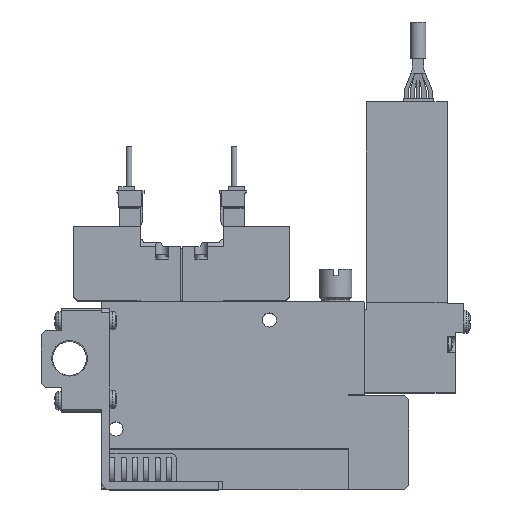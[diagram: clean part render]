
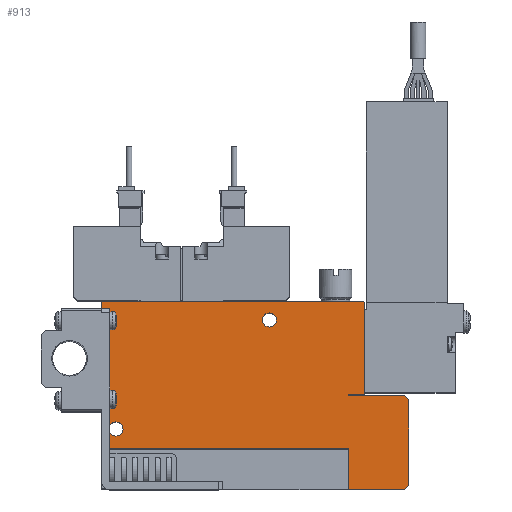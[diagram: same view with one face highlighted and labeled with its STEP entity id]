
A CAD part, top view. The second image highlights one B-rep face of the part: STEP entity #913.
In plain terms, the highlighted planar face has unit normal (0, 0, 1).
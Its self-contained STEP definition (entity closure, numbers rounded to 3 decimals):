
#913=ADVANCED_FACE('',(#2149,#2150,#2151),#2152,.F.);
#2149=FACE_OUTER_BOUND('',#3793,.T.);
#2150=FACE_BOUND('',#3794,.T.);
#2151=FACE_BOUND('',#3795,.T.);
#2152=PLANE('',#3796);
#3793=EDGE_LOOP('',(#8177,#8178,#8179,#8180,#8181,#8182,#8183,#8184,#8185,#8186,#8187,#8188,#8189,#8190));
#3794=EDGE_LOOP('',(#8191));
#3795=EDGE_LOOP('',(#8192));
#3796=AXIS2_PLACEMENT_3D('',#8193,#8194,#8195);
#8177=ORIENTED_EDGE('',*,*,#11498,.T.);
#8178=ORIENTED_EDGE('',*,*,#11508,.F.);
#8179=ORIENTED_EDGE('',*,*,#11553,.F.);
#8180=ORIENTED_EDGE('',*,*,#11409,.T.);
#8181=ORIENTED_EDGE('',*,*,#11442,.T.);
#8182=ORIENTED_EDGE('',*,*,#11554,.T.);
#8183=ORIENTED_EDGE('',*,*,#11434,.T.);
#8184=ORIENTED_EDGE('',*,*,#11555,.T.);
#8185=ORIENTED_EDGE('',*,*,#11492,.T.);
#8186=ORIENTED_EDGE('',*,*,#11401,.T.);
#8187=ORIENTED_EDGE('',*,*,#11550,.T.);
#8188=ORIENTED_EDGE('',*,*,#11286,.T.);
#8189=ORIENTED_EDGE('',*,*,#11456,.T.);
#8190=ORIENTED_EDGE('',*,*,#11556,.T.);
#8191=ORIENTED_EDGE('',*,*,#11528,.F.);
#8192=ORIENTED_EDGE('',*,*,#11507,.F.);
#8193=CARTESIAN_POINT('',(0.0,0.0,5.0));
#8194=DIRECTION('',(0.0,0.0,-1.0));
#8195=DIRECTION('',(0.0,-1.0,0.0));
#11286=EDGE_CURVE('',#13793,#13791,#13794,.T.);
#11401=EDGE_CURVE('',#13995,#13993,#13996,.T.);
#11409=EDGE_CURVE('',#14004,#14008,#14010,.T.);
#11434=EDGE_CURVE('',#14050,#14048,#14051,.T.);
#11442=EDGE_CURVE('',#14008,#14061,#14063,.T.);
#11456=EDGE_CURVE('',#13791,#14083,#14085,.T.);
#11492=EDGE_CURVE('',#14140,#13995,#14141,.T.);
#11498=EDGE_CURVE('',#14150,#14148,#14151,.T.);
#11507=EDGE_CURVE('',#14163,#14163,#14164,.T.);
#11508=EDGE_CURVE('',#14165,#14148,#14166,.T.);
#11528=EDGE_CURVE('',#14197,#14197,#14198,.T.);
#11550=EDGE_CURVE('',#13993,#13793,#14223,.T.);
#11553=EDGE_CURVE('',#14004,#14165,#14226,.T.);
#11554=EDGE_CURVE('',#14061,#14050,#14227,.T.);
#11555=EDGE_CURVE('',#14048,#14140,#14228,.T.);
#11556=EDGE_CURVE('',#14083,#14150,#14229,.T.);
#13791=VERTEX_POINT('',#17949);
#13793=VERTEX_POINT('',#17952);
#13794=LINE('',#17953,#17954);
#13993=VERTEX_POINT('',#18244);
#13995=VERTEX_POINT('',#18247);
#13996=LINE('',#18248,#18249);
#14004=VERTEX_POINT('',#18261);
#14008=VERTEX_POINT('',#18267);
#14010=LINE('',#18270,#18271);
#14048=VERTEX_POINT('',#18337);
#14050=VERTEX_POINT('',#18340);
#14051=LINE('',#18341,#18342);
#14061=VERTEX_POINT('',#18358);
#14063=LINE('',#18361,#18362);
#14083=VERTEX_POINT('',#18403);
#14085=LINE('',#18406,#18407);
#14140=VERTEX_POINT('',#18507);
#14141=LINE('',#18508,#18509);
#14148=VERTEX_POINT('',#18520);
#14150=VERTEX_POINT('',#18523);
#14151=LINE('',#18524,#18525);
#14163=VERTEX_POINT('',#18549);
#14164=CIRCLE('',#18550,1.75);
#14165=VERTEX_POINT('',#18551);
#14166=LINE('',#18552,#18553);
#14197=VERTEX_POINT('',#18609);
#14198=CIRCLE('',#18610,1.75);
#14223=LINE('',#18663,#18664);
#14226=LINE('',#18678,#18679);
#14227=LINE('',#18680,#18681);
#14228=LINE('',#18682,#18683);
#14229=LINE('',#18684,#18685);
#17949=CARTESIAN_POINT('',(64.8,46.6,5.0));
#17952=CARTESIAN_POINT('',(65.0,46.4,5.0));
#17953=CARTESIAN_POINT('',(65.0,46.4,5.0));
#17954=VECTOR('',#22124,1.0);
#18244=CARTESIAN_POINT('',(65.0,23.5,5.0));
#18247=CARTESIAN_POINT('',(61.0,23.5,5.0));
#18248=CARTESIAN_POINT('',(61.0,23.5,5.0));
#18249=VECTOR('',#22283,1.0);
#18261=CARTESIAN_POINT('',(61.1,0.0,5.0));
#18267=CARTESIAN_POINT('',(75.0,0.0,5.0));
#18270=CARTESIAN_POINT('',(0.0,0.0,5.0));
#18271=VECTOR('',#22291,1.0);
#18337=CARTESIAN_POINT('',(75.0,23.25,5.0));
#18340=CARTESIAN_POINT('',(76.0,22.25,5.0));
#18341=CARTESIAN_POINT('',(76.0,22.25,5.0));
#18342=VECTOR('',#22323,1.0);
#18358=CARTESIAN_POINT('',(76.0,1.0,5.0));
#18361=CARTESIAN_POINT('',(75.0,0.0,5.0));
#18362=VECTOR('',#22331,1.0);
#18403=CARTESIAN_POINT('',(0.2,46.6,5.0));
#18406=CARTESIAN_POINT('',(64.8,46.6,5.0));
#18407=VECTOR('',#22344,1.0);
#18507=CARTESIAN_POINT('',(61.0,23.25,5.0));
#18508=CARTESIAN_POINT('',(61.0,23.25,5.0));
#18509=VECTOR('',#22394,1.0);
#18520=CARTESIAN_POINT('',(0.0,10.1,5.0));
#18523=CARTESIAN_POINT('',(0.0,46.4,5.0));
#18524=CARTESIAN_POINT('',(0.0,46.4,5.0));
#18525=VECTOR('',#22400,1.0);
#18549=CARTESIAN_POINT('',(43.25,42.0,5.0));
#18550=AXIS2_PLACEMENT_3D('',#22416,#22417,#22418);
#18551=CARTESIAN_POINT('',(61.1,10.1,5.0));
#18552=CARTESIAN_POINT('',(61.1,10.1,5.0));
#18553=VECTOR('',#22419,1.0);
#18609=CARTESIAN_POINT('',(5.25,15.0,5.0));
#18610=AXIS2_PLACEMENT_3D('',#22442,#22443,#22444);
#18663=CARTESIAN_POINT('',(65.0,23.5,5.0));
#18664=VECTOR('',#22469,1.0);
#18678=CARTESIAN_POINT('',(61.1,0.0,5.0));
#18679=VECTOR('',#22471,1.0);
#18680=CARTESIAN_POINT('',(76.0,1.0,5.0));
#18681=VECTOR('',#22472,1.0);
#18682=CARTESIAN_POINT('',(75.0,23.25,5.0));
#18683=VECTOR('',#22473,1.0);
#18684=CARTESIAN_POINT('',(0.2,46.6,5.0));
#18685=VECTOR('',#22474,1.0);
#22124=DIRECTION('',(-0.707,0.707,0.0));
#22283=DIRECTION('',(1.0,0.,0.0));
#22291=DIRECTION('',(1.0,0.0,0.0));
#22323=DIRECTION('',(-0.707,0.707,0.0));
#22331=DIRECTION('',(0.707,0.707,0.0));
#22344=DIRECTION('',(-1.0,0.0,0.0));
#22394=DIRECTION('',(0.0,1.0,0.0));
#22400=DIRECTION('',(0.0,-1.0,0.0));
#22416=CARTESIAN_POINT('',(41.5,42.0,5.0));
#22417=DIRECTION('',(0.0,0.0,1.0));
#22418=DIRECTION('',(1.0,0.0,0.0));
#22419=DIRECTION('',(-1.0,0.0,0.0));
#22442=CARTESIAN_POINT('',(3.5,15.0,5.0));
#22443=DIRECTION('',(0.0,0.0,1.0));
#22444=DIRECTION('',(1.0,0.0,0.0));
#22469=DIRECTION('',(0.0,1.0,0.0));
#22471=DIRECTION('',(0.0,1.0,0.0));
#22472=DIRECTION('',(0.0,1.0,0.0));
#22473=DIRECTION('',(-1.0,0.0,0.0));
#22474=DIRECTION('',(-0.707,-0.707,0.0));
